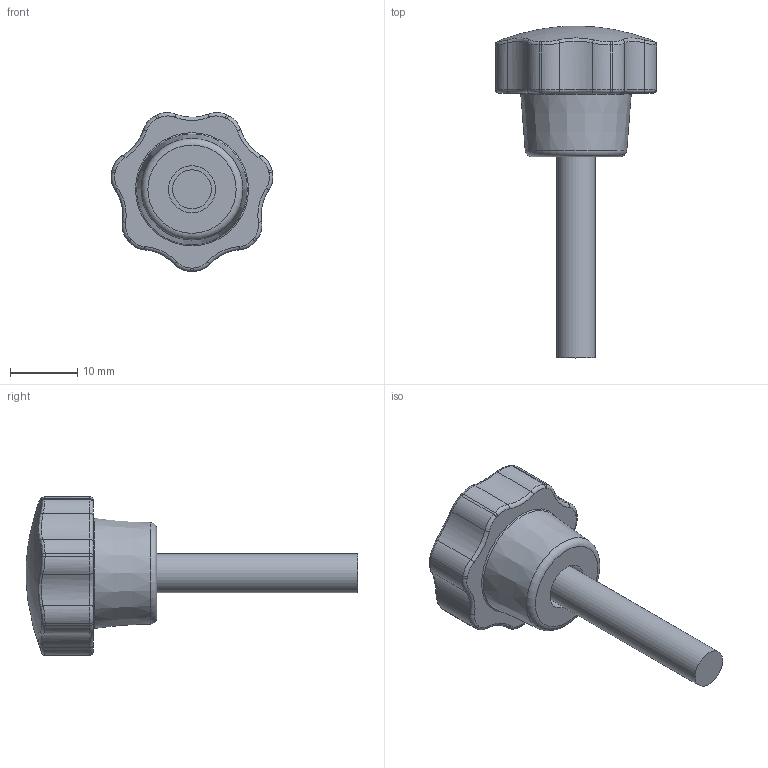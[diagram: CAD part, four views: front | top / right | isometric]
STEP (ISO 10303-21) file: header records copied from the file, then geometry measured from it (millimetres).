
FILE_DESCRIPTION(/* description */ (''),/* implementation_level */ '2;1');
FILE_NAME(/* name */ '\\SYNOLOGYNAS\web\db2\MSKB_M\MSKB6\도면\MSKB-M6-30.stp',/* time_stamp */ '2024-04-11T13:19:45+09:00',/* author */ ('user'),/* organization */ (''),/* preprocessor_version */ 'ST-DEVELOPER v15.6',/* originating_system */ 'Autodesk Inventor 2015',/* authorisation */ '');
FILE_SCHEMA (('AUTOMOTIVE_DESIGN { 1 0 10303 214 3 1 1 }'));
Length unit declared in the file: millimetre
Products named in the file (1): MSKB-M6-30
Bounding box: 24.11 x 49.5 x 23.68 mm (x, y, z)
Volume: 6284.1 mm3; surface area: 2584.4 mm2
Topology: 1 solids, 1 shells, 94 faces, 212 edges, 122 vertices
Faces by surface type: torus 37, cylinder 30, bspline 22, plane 4, cone 1
Full cylindrical faces by diameter (mm): 5.8 x1, 7 x1
Entity records: 3069 total; most frequent: CARTESIAN_POINT 1025, DIRECTION 444, ORIENTED_EDGE 412, AXIS2_PLACEMENT_3D 208, EDGE_CURVE 206, CIRCLE 135, VERTEX_POINT 122, EDGE_LOOP 102
